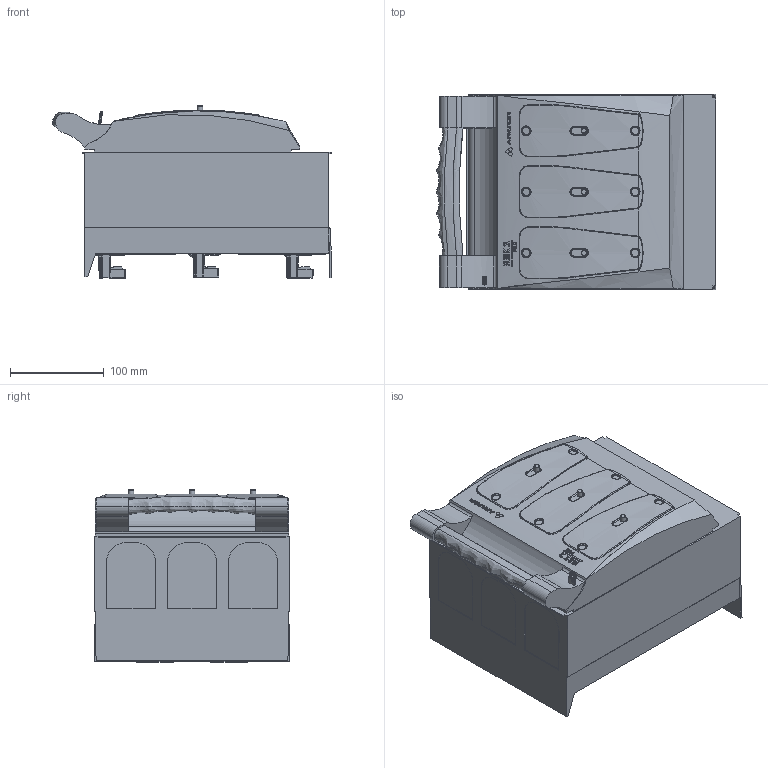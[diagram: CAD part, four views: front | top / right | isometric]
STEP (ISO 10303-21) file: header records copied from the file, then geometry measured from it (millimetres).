
FILE_DESCRIPTION(/* description */ (''),/* implementation_level */ '2;1');
FILE_NAME(/* name */ 'RBK 2 pro-SD-M 100.stp',/* time_stamp */ '2020-09-30T09:11:27+02:00',/* author */ (''),/* organization */ (''),/* preprocessor_version */ 'ST-DEVELOPER v16',/* originating_system */ 'SIEMENS PLM Software NX 10.0',/* authorisation */ '');
FILE_SCHEMA (('AUTOMOTIVE_DESIGN { 1 0 10303 214 3 1 1 1 }'));
Products named in the file (1): 710_2CE077B1gm3e
Bounding box: 297.76 x 208 x 184.12 mm (x, y, z)
Volume: 7200303.2 mm3; surface area: 355381.1 mm2
Topology: 1 solids, 3 shells, 1890 faces, 5140 edges, 3239 vertices
Faces by surface type: plane 1063, cylinder 363, bspline 301, extrusion 95, sphere 43, torus 16, cone 9
Full cylindrical faces by diameter (mm): 6 x3, 11 x3
Entity records: 71243 total; most frequent: CARTESIAN_POINT 25137, ORIENTED_EDGE 10036, DIRECTION 9359, EDGE_CURVE 5018, AXIS2_PLACEMENT_3D 3500, VERTEX_POINT 3217, VECTOR 2359, LINE 2264
